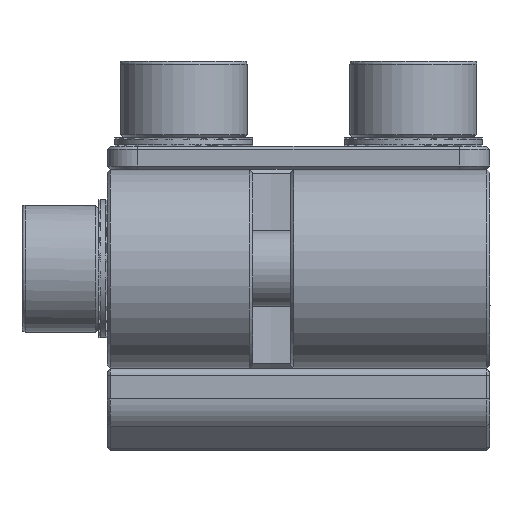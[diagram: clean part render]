
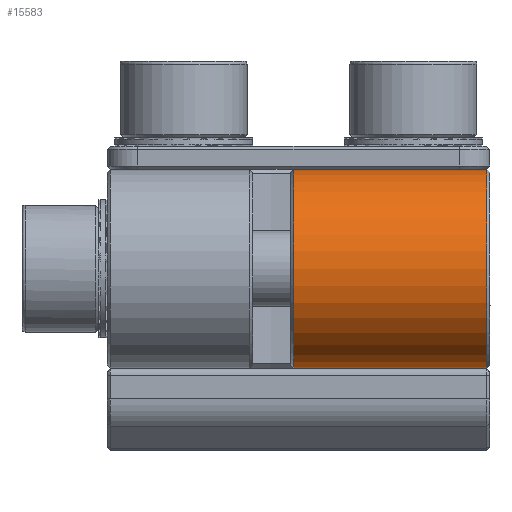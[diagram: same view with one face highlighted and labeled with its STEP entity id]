
A CAD part, left-side view. The second image highlights one B-rep face of the part: STEP entity #15583.
In plain terms, the highlighted cylindrical face has radius 6.5 mm (diameter 13 mm), a partial arc.
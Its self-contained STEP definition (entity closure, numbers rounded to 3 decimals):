
#8460=CYLINDRICAL_SURFACE('',#35950,6.5);
#9353=FACE_OUTER_BOUND('',#17950,.T.);
#11587=LINE('',#50736,#14125);
#11588=LINE('',#50737,#14126);
#14125=VECTOR('',#42540,1.);
#14126=VECTOR('',#42541,1.);
#15583=ADVANCED_FACE('',(#9353),#8460,.T.);
#17950=EDGE_LOOP('',(#24494,#24495,#24496,#24497));
#24494=ORIENTED_EDGE('',*,*,#31781,.F.);
#24495=ORIENTED_EDGE('',*,*,#31774,.T.);
#24496=ORIENTED_EDGE('',*,*,#31782,.T.);
#24497=ORIENTED_EDGE('',*,*,#31746,.T.);
#28100=VERTEX_POINT('',#50661);
#28101=VERTEX_POINT('',#50665);
#28116=VERTEX_POINT('',#50714);
#28118=VERTEX_POINT('',#50722);
#31746=EDGE_CURVE('',#28101,#28100,#33651,.T.);
#31774=EDGE_CURVE('',#28116,#28118,#33653,.T.);
#31781=EDGE_CURVE('',#28116,#28100,#11587,.T.);
#31782=EDGE_CURVE('',#28118,#28101,#11588,.T.);
#33651=CIRCLE('',#35929,6.5);
#33653=CIRCLE('',#35942,6.5);
#35929=AXIS2_PLACEMENT_3D('',#50668,#42468,#42469);
#35942=AXIS2_PLACEMENT_3D('',#50723,#42520,#42521);
#35950=AXIS2_PLACEMENT_3D('',#50738,#42542,#42543);
#42468=DIRECTION('',(0.,-1.,0.));
#42469=DIRECTION('',(0.,0.,-1.));
#42520=DIRECTION('',(0.,1.,0.));
#42521=DIRECTION('',(0.,0.,1.));
#42540=DIRECTION('',(0.,1.,0.));
#42541=DIRECTION('',(0.,1.,0.));
#42542=DIRECTION('',(0.,1.,0.));
#42543=DIRECTION('',(0.,0.,1.));
#50661=CARTESIAN_POINT('',(-49.632,-26.435,-6.5));
#50665=CARTESIAN_POINT('',(-49.632,-26.435,6.5));
#50668=CARTESIAN_POINT('',(-49.632,-26.435,0.));
#50714=CARTESIAN_POINT('',(-49.632,-39.035,-6.5));
#50722=CARTESIAN_POINT('',(-49.632,-39.035,6.5));
#50723=CARTESIAN_POINT('',(-49.632,-39.035,0.));
#50736=CARTESIAN_POINT('',(-49.632,-39.235,-6.5));
#50737=CARTESIAN_POINT('',(-49.632,-39.235,6.5));
#50738=CARTESIAN_POINT('',(-49.632,-39.235,0.));
